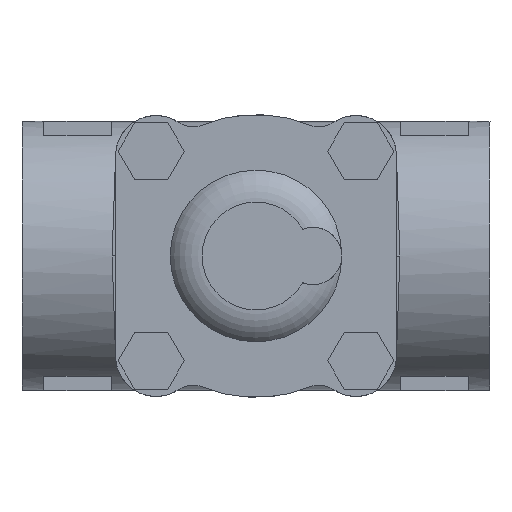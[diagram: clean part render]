
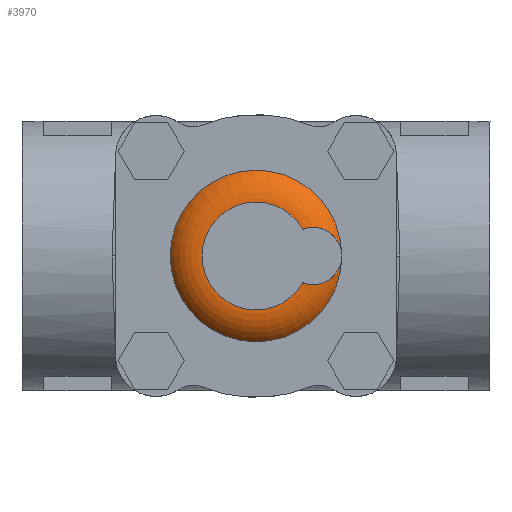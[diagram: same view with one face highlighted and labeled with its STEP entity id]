
A CAD part, front view. The second image highlights one B-rep face of the part: STEP entity #3970.
In plain terms, the highlighted toroidal (fillet/blend) face has major radius 16 mm and minor radius 11.5 mm.
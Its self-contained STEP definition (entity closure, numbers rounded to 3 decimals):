
#1109=FACE_OUTER_BOUND('',#1339,.T.);
#1339=EDGE_LOOP('',(#3085,#3086,#3087,#3088));
#1591=B_SPLINE_CURVE_WITH_KNOTS('',3,(#6906,#6907,#6908,#6909,#6910,#6911,
#6912,#6913,#6914,#6915,#6916,#6917,#6918,#6919,#6920,#6921),
 .UNSPECIFIED.,.F.,.F.,(4,2,2,2,2,2,2,4),(-1.886,-1.824,
-1.489,-1.1,-0.701,-0.386,
-0.142,-0.058),.UNSPECIFIED.);
#1592=B_SPLINE_CURVE_WITH_KNOTS('',3,(#6924,#6925,#6926,#6927,#6928,#6929,
#6930,#6931,#6932,#6933,#6934,#6935,#6936,#6937),.UNSPECIFIED.,.F.,.F.,
(4,2,2,2,2,2,4),(-5.806,-5.66,-5.341,-4.977,
-4.673,-4.425,-4.292),.UNSPECIFIED.);
#1698=CIRCLE('',#4368,16.);
#1699=CIRCLE('',#4369,25.487);
#1938=VERTEX_POINT('',#6902);
#1939=VERTEX_POINT('',#6903);
#1940=VERTEX_POINT('',#6905);
#1941=VERTEX_POINT('',#6922);
#2410=EDGE_CURVE('',#1938,#1939,#1698,.T.);
#2411=EDGE_CURVE('',#1938,#1940,#1591,.T.);
#2412=EDGE_CURVE('',#1940,#1941,#1699,.T.);
#2413=EDGE_CURVE('',#1939,#1941,#1592,.F.);
#3085=ORIENTED_EDGE('',*,*,#2410,.F.);
#3086=ORIENTED_EDGE('',*,*,#2411,.T.);
#3087=ORIENTED_EDGE('',*,*,#2412,.T.);
#3088=ORIENTED_EDGE('',*,*,#2413,.F.);
#3906=TOROIDAL_SURFACE('',#4367,16.,11.5);
#3970=ADVANCED_FACE('',(#1109),#3906,.T.);
#4367=AXIS2_PLACEMENT_3D('',#6901,#5083,#5084);
#4368=AXIS2_PLACEMENT_3D('',#6904,#5085,#5086);
#4369=AXIS2_PLACEMENT_3D('',#6923,#5087,#5088);
#5083=DIRECTION('center_axis',(0.,-1.,0.));
#5084=DIRECTION('ref_axis',(-1.,0.,0.));
#5085=DIRECTION('center_axis',(0.,-1.,0.));
#5086=DIRECTION('ref_axis',(0.869,0.,0.495));
#5087=DIRECTION('center_axis',(0.,-1.,0.));
#5088=DIRECTION('ref_axis',(1.,0.,0.023));
#6901=CARTESIAN_POINT('Origin',(339.044,-4.287,34.501));
#6902=CARTESIAN_POINT('',(352.949,-15.787,42.417));
#6903=CARTESIAN_POINT('',(352.949,-15.787,26.585));
#6904=CARTESIAN_POINT('Origin',(339.044,-15.787,34.501));
#6905=CARTESIAN_POINT('',(364.524,-10.787,35.08));
#6906=CARTESIAN_POINT('Ctrl Pts',(352.949,-15.787,42.417));
#6907=CARTESIAN_POINT('Ctrl Pts',(353.115,-15.787,42.483));
#6908=CARTESIAN_POINT('Ctrl Pts',(353.285,-15.783,42.543));
#6909=CARTESIAN_POINT('Ctrl Pts',(354.383,-15.731,42.893));
#6910=CARTESIAN_POINT('Ctrl Pts',(355.348,-15.57,43.027));
#6911=CARTESIAN_POINT('Ctrl Pts',(357.43,-15.03,42.962));
#6912=CARTESIAN_POINT('Ctrl Pts',(358.517,-14.626,42.707));
#6913=CARTESIAN_POINT('Ctrl Pts',(360.538,-13.689,41.803));
#6914=CARTESIAN_POINT('Ctrl Pts',(361.465,-13.153,41.145));
#6915=CARTESIAN_POINT('Ctrl Pts',(362.851,-12.219,39.67));
#6916=CARTESIAN_POINT('Ctrl Pts',(363.374,-11.81,38.907));
#6917=CARTESIAN_POINT('Ctrl Pts',(364.073,-11.215,37.385));
#6918=CARTESIAN_POINT('Ctrl Pts',(364.303,-11.,36.66));
#6919=CARTESIAN_POINT('Ctrl Pts',(364.474,-10.836,35.621));
#6920=CARTESIAN_POINT('Ctrl Pts',(364.506,-10.805,35.353));
#6921=CARTESIAN_POINT('Ctrl Pts',(364.524,-10.787,35.08));
#6922=CARTESIAN_POINT('',(364.524,-10.787,33.922));
#6923=CARTESIAN_POINT('Origin',(339.044,-10.787,34.501));
#6924=CARTESIAN_POINT('Ctrl Pts',(364.524,-10.787,33.922));
#6925=CARTESIAN_POINT('Ctrl Pts',(364.491,-10.82,33.437));
#6926=CARTESIAN_POINT('Ctrl Pts',(364.417,-10.892,32.957));
#6927=CARTESIAN_POINT('Ctrl Pts',(364.049,-11.235,31.452));
#6928=CARTESIAN_POINT('Ctrl Pts',(363.609,-11.629,30.492));
#6929=CARTESIAN_POINT('Ctrl Pts',(362.356,-12.575,28.69));
#6930=CARTESIAN_POINT('Ctrl Pts',(361.468,-13.169,27.834));
#6931=CARTESIAN_POINT('Ctrl Pts',(359.463,-14.216,26.647));
#6932=CARTESIAN_POINT('Ctrl Pts',(358.427,-14.668,26.264));
#6933=CARTESIAN_POINT('Ctrl Pts',(356.395,-15.325,25.958));
#6934=CARTESIAN_POINT('Ctrl Pts',(355.438,-15.556,25.966));
#6935=CARTESIAN_POINT('Ctrl Pts',(353.956,-15.751,26.245));
#6936=CARTESIAN_POINT('Ctrl Pts',(353.445,-15.787,26.391));
#6937=CARTESIAN_POINT('Ctrl Pts',(352.949,-15.787,26.585));
